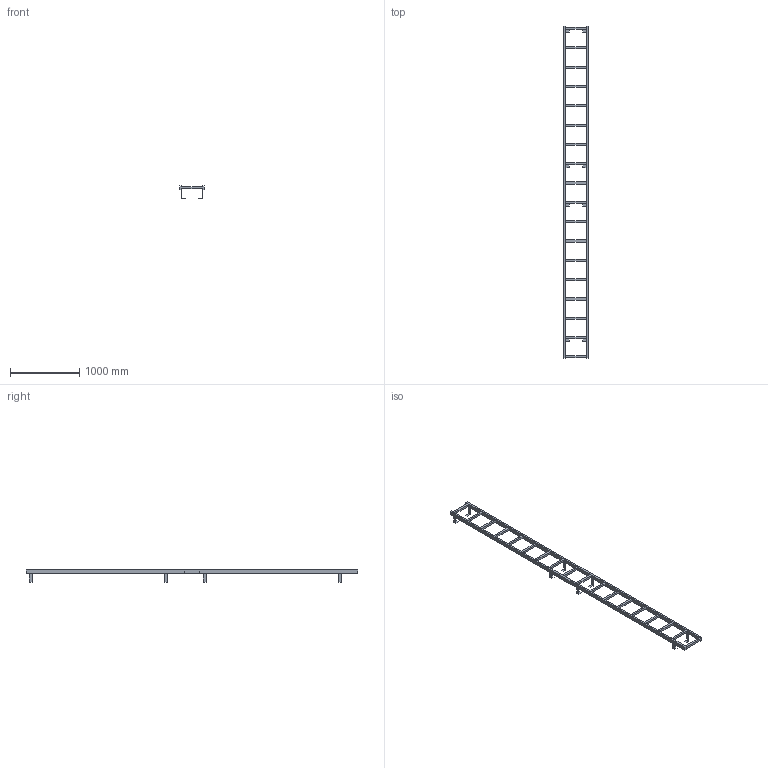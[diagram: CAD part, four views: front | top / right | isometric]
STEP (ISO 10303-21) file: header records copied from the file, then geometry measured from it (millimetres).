
FILE_DESCRIPTION((''),'2;1');
FILE_NAME('52310734','2024-10-17T11:25:47',('wep'),('HUBER SE'),'CREO PARAMETRIC BY PTC INC, 2022162','CREO PARAMETRIC BY PTC INC, 2022162','');
FILE_SCHEMA(('AUTOMOTIVE_DESIGN { 1 0 10303 214 1 1 1 1 }'));
Length unit declared in the file: millimetre
Products named in the file (1): 52310734
Bounding box: 350 x 4810 x 178.5 mm (x, y, z)
Volume: 18697850 mm3; surface area: 2329290.4 mm2
Topology: 4 solids, 4 shells, 168 faces, 480 edges, 312 vertices
Faces by surface type: plane 168
Entity records: 5959 total; most frequent: CARTESIAN_POINT 962, ORIENTED_EDGE 960, DIRECTION 816, VECTOR 480, LINE 480, EDGE_CURVE 480, VERTEX_POINT 312, EDGE_LOOP 192
